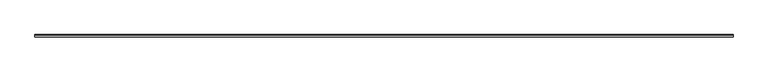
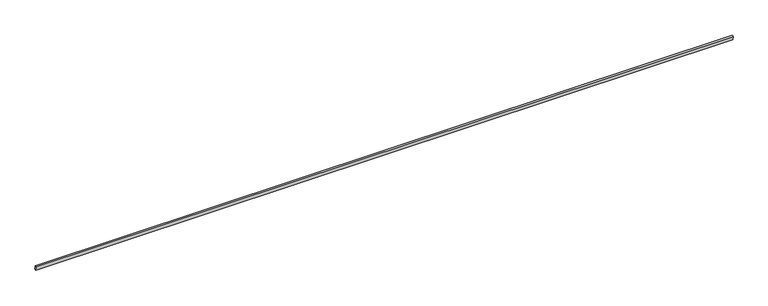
"""IFC4 building model written with IfcOpenShell, lengths in millimetres: proxy geometry, Modelos genéricos 20 : Modelos genéricos 18."""

from ifc_helpers import new_model, si_unit, frame, origin, place, context, project, spatial, polyline, outline, extrude, source, transform, mapped, element, save


def generic_models_3c80b7b9(model_context):
    return source(origin(), model_context, "Body", "SweptSolid", [
        extrude(outline(polyline([(0.0, -27228.7383178), (0.0, 0.0), (60.0, 0.0), (60.0, -27228.7383178), (0.0, -27228.7383178)])), frame((70767.1855645, -566.3761835, 3600.1445647), z_axis=(0.0, -0.2419218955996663, 0.9702957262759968), x_axis=(0.0, -0.9702957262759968, -0.2419218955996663)), (0.0, 0.0, 1.0), 160.0),
    ])


if __name__ == "__main__":
    model = new_model("IFC4")
    model_context = context("Model", 3, world=origin())
    ifc_project = project(units=[si_unit("LENGTHUNIT", "METRE", prefix="MILLI")], contexts=[model_context])
    site = spatial("IfcSite", under=ifc_project)
    building = spatial("IfcBuilding", under=site)
    placement = place(None, origin())
    generic_models_shape = generic_models_3c80b7b9(model_context)
    element("IfcBuildingElementProxy", 1, Name="Modelos genéricos 20 : Modelos genéricos 18", ObjectType="Modelos genéricos 20 : Modelos genéricos 18", at=placement, inside=building, context=model_context, shape_type="MappedRepresentation", body=[
        mapped(generic_models_shape, transform((0.0, 0.0, 0.0), x_axis=(1.0, 0.0, 0.0), y_axis=(0.0, 1.0, 0.0), z_axis=(0.0, 0.0, 1.0))),
    ])
    save(model, "model.ifc")
